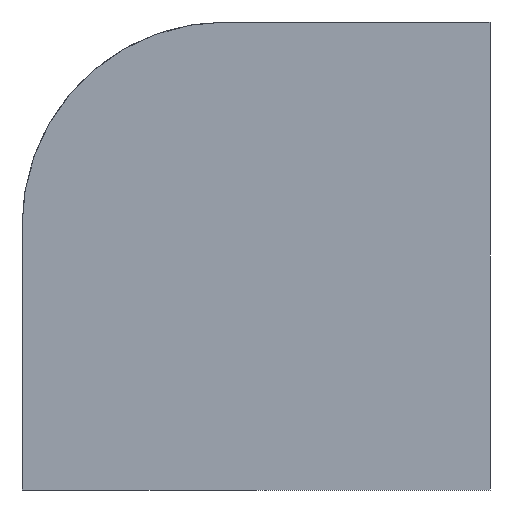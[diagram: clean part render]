
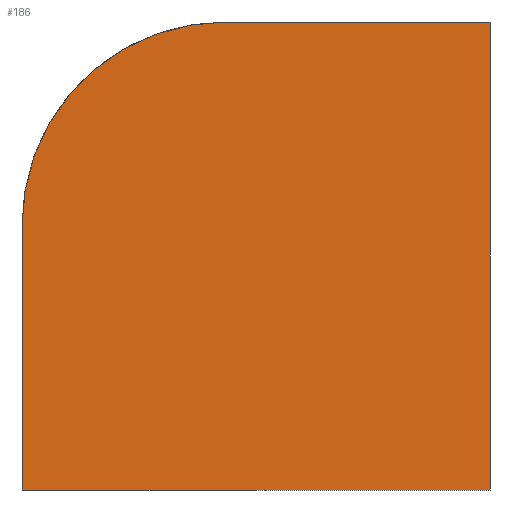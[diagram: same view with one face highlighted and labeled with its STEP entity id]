
A CAD part, left-side view. The second image highlights one B-rep face of the part: STEP entity #186.
In plain terms, the highlighted planar face has unit normal (-1, 0, 0).
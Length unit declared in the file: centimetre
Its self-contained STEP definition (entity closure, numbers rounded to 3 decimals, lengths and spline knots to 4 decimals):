
#4 = CARTESIAN_POINT ( 'NONE',  ( 0., 1000., 565.1082 ) ) ;
#11 = CIRCLE ( 'NONE', #274, 434.8918 ) ;
#13 = DIRECTION ( 'NONE',  ( 0., -1., 0. ) ) ;
#30 = VECTOR ( 'NONE', #283, 100. ) ;
#36 = DIRECTION ( 'NONE',  ( 0., 0., -1. ) ) ;
#38 = ORIENTED_EDGE ( 'NONE', *, *, #349, .F. ) ;
#51 = ORIENTED_EDGE ( 'NONE', *, *, #116, .F. ) ;
#55 = CARTESIAN_POINT ( 'NONE',  ( 0., 0., 1000. ) ) ;
#67 = CARTESIAN_POINT ( 'NONE',  ( 0., 565.1082, 565.1082 ) ) ;
#71 = EDGE_CURVE ( 'NONE', #366, #354, #11, .T. ) ;
#82 = CARTESIAN_POINT ( 'NONE',  ( 0., 565.1082, 1000. ) ) ;
#83 = CARTESIAN_POINT ( 'NONE',  ( 0., 1000., 1000. ) ) ;
#87 = LINE ( 'NONE', #310, #134 ) ;
#107 = LINE ( 'NONE', #224, #153 ) ;
#113 = EDGE_CURVE ( 'NONE', #354, #357, #148, .T. ) ;
#116 = EDGE_CURVE ( 'NONE', #366, #251, #169, .T. ) ;
#119 = CARTESIAN_POINT ( 'NONE',  ( 0., 0., 0. ) ) ;
#125 = VECTOR ( 'NONE', #282, 100. ) ;
#134 = VECTOR ( 'NONE', #168, 100. ) ;
#148 = LINE ( 'NONE', #302, #30 ) ;
#153 = VECTOR ( 'NONE', #13, 100. ) ;
#160 = EDGE_CURVE ( 'NONE', #357, #280, #107, .T. ) ;
#168 = DIRECTION ( 'NONE',  ( 0., 0., -1. ) ) ;
#169 = LINE ( 'NONE', #83, #125 ) ;
#179 = DIRECTION ( 'NONE',  ( 0., 0., -1. ) ) ;
#184 = DIRECTION ( 'NONE',  ( 1., 0., 0. ) ) ;
#186 = ADVANCED_FACE ( 'NONE', ( #263 ), #369, .F. ) ;
#224 = CARTESIAN_POINT ( 'NONE',  ( 0., 1000., 0. ) ) ;
#235 = CARTESIAN_POINT ( 'NONE',  ( 0., 1000., 1000. ) ) ;
#242 = CARTESIAN_POINT ( 'NONE',  ( 0., 1000., 0. ) ) ;
#251 = VERTEX_POINT ( 'NONE', #55 ) ;
#260 = ORIENTED_EDGE ( 'NONE', *, *, #160, .T. ) ;
#263 = FACE_OUTER_BOUND ( 'NONE', #275, .T. ) ;
#264 = AXIS2_PLACEMENT_3D ( 'NONE', #235, #184, #179 ) ;
#274 = AXIS2_PLACEMENT_3D ( 'NONE', #67, #348, #36 ) ;
#275 = EDGE_LOOP ( 'NONE', ( #51, #324, #326, #260, #38 ) ) ;
#280 = VERTEX_POINT ( 'NONE', #119 ) ;
#282 = DIRECTION ( 'NONE',  ( 0., -1., 0. ) ) ;
#283 = DIRECTION ( 'NONE',  ( 0., 0., -1. ) ) ;
#302 = CARTESIAN_POINT ( 'NONE',  ( 0., 1000., 1000. ) ) ;
#310 = CARTESIAN_POINT ( 'NONE',  ( 0., 0., 1000. ) ) ;
#324 = ORIENTED_EDGE ( 'NONE', *, *, #71, .T. ) ;
#326 = ORIENTED_EDGE ( 'NONE', *, *, #113, .T. ) ;
#348 = DIRECTION ( 'NONE',  ( -1., 0., 0. ) ) ;
#349 = EDGE_CURVE ( 'NONE', #251, #280, #87, .T. ) ;
#354 = VERTEX_POINT ( 'NONE', #4 ) ;
#357 = VERTEX_POINT ( 'NONE', #242 ) ;
#366 = VERTEX_POINT ( 'NONE', #82 ) ;
#369 = PLANE ( 'NONE',  #264 ) ;
